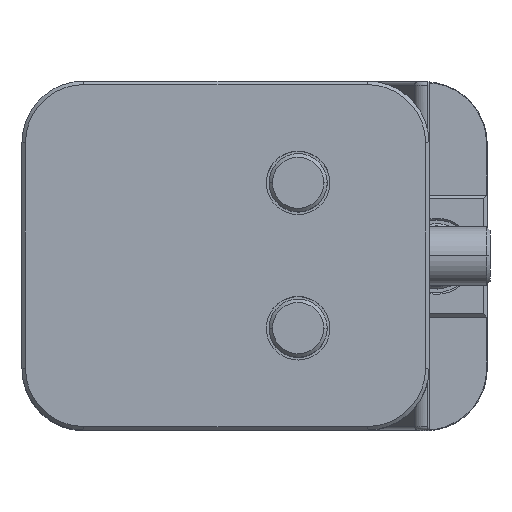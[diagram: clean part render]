
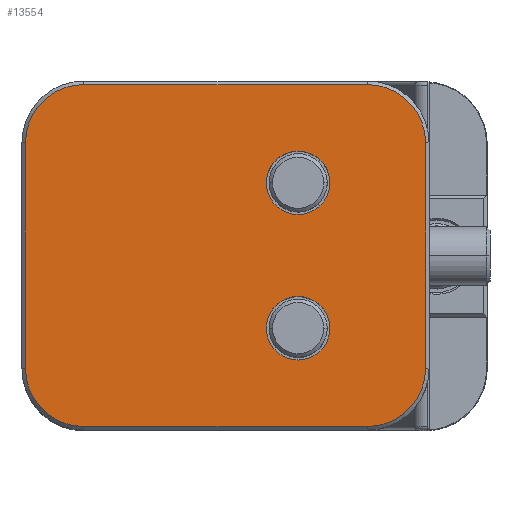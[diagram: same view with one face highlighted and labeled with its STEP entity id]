
A CAD part, top view. The second image highlights one B-rep face of the part: STEP entity #13554.
In plain terms, the highlighted planar face has unit normal (0, 0, 1).
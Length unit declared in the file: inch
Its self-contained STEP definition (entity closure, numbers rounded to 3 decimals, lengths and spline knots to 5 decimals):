
#266 = ORIENTED_EDGE ( 'NONE', *, *, #16102, .T. ) ;
#460 = VECTOR ( 'NONE', #12580, 39.37008 ) ;
#760 = FACE_OUTER_BOUND ( 'NONE', #2815, .T. ) ;
#1141 = CIRCLE ( 'NONE', #14020, 0.273 ) ;
#1780 = ORIENTED_EDGE ( 'NONE', *, *, #9793, .T. ) ;
#1789 = CARTESIAN_POINT ( 'NONE',  ( -1.3985, 0.625, 0. ) ) ;
#2026 = VECTOR ( 'NONE', #13058, 39.37008 ) ;
#2059 = CARTESIAN_POINT ( 'NONE',  ( -0.03, 0.9695, 0. ) ) ;
#2082 = DIRECTION ( 'NONE',  ( 0., 0., -1. ) ) ;
#2143 = DIRECTION ( 'NONE',  ( 0., 0., 1. ) ) ;
#2815 = EDGE_LOOP ( 'NONE', ( #14556, #15765, #12630, #266, #11210, #15732, #5502, #6787 ) ) ;
#3080 = CIRCLE ( 'NONE', #7704, 0.273 ) ;
#3355 = DIRECTION ( 'NONE',  ( 1., 0., 0. ) ) ;
#3434 = DIRECTION ( 'NONE',  ( 0., 0., 1. ) ) ;
#3452 = DIRECTION ( 'NONE',  ( 0., 1., 0. ) ) ;
#3782 = EDGE_CURVE ( 'NONE', #12579, #16794, #8959, .T. ) ;
#3789 = AXIS2_PLACEMENT_3D ( 'NONE', #17446, #3434, #17313 ) ;
#3862 = EDGE_CURVE ( 'NONE', #12845, #12849, #14005, .T. ) ;
#3875 = VERTEX_POINT ( 'NONE', #16830 ) ;
#4047 = DIRECTION ( 'NONE',  ( 0., 0., -1. ) ) ;
#4175 = CARTESIAN_POINT ( 'NONE',  ( -1.1255, -0.625, 0. ) ) ;
#4177 = CIRCLE ( 'NONE', #10794, 0.273 ) ;
#4206 = CARTESIAN_POINT ( 'NONE',  ( -3.499, 1.4695, 0. ) ) ;
#4412 = ORIENTED_EDGE ( 'NONE', *, *, #3862, .T. ) ;
#4441 = CARTESIAN_POINT ( 'NONE',  ( -0.53, -1.4695, 0. ) ) ;
#4463 = ORIENTED_EDGE ( 'NONE', *, *, #9713, .T. ) ;
#4626 = CARTESIAN_POINT ( 'NONE',  ( -1.1255, 0.625, 0. ) ) ;
#4718 = EDGE_LOOP ( 'NONE', ( #4412, #9258 ) ) ;
#4778 = EDGE_CURVE ( 'NONE', #14084, #10676, #4988, .T. ) ;
#4988 = CIRCLE ( 'NONE', #3789, 0.5 ) ;
#5053 = CARTESIAN_POINT ( 'NONE',  ( -1.1255, 0.625, 0. ) ) ;
#5087 = DIRECTION ( 'NONE',  ( 1., 0., 0. ) ) ;
#5201 = DIRECTION ( 'NONE',  ( 0., 0., 1. ) ) ;
#5414 = AXIS2_PLACEMENT_3D ( 'NONE', #11623, #2143, #3355 ) ;
#5502 = ORIENTED_EDGE ( 'NONE', *, *, #3782, .T. ) ;
#5513 = DIRECTION ( 'NONE',  ( 1., 0., 0. ) ) ;
#5574 = CARTESIAN_POINT ( 'NONE',  ( -3.499, -1.4695, 0. ) ) ;
#5575 = EDGE_CURVE ( 'NONE', #10676, #14322, #8220, .T. ) ;
#5768 = DIRECTION ( 'NONE',  ( 1., 0., 0. ) ) ;
#6115 = CARTESIAN_POINT ( 'NONE',  ( -3.469, -1.4995, 0. ) ) ;
#6787 = ORIENTED_EDGE ( 'NONE', *, *, #15312, .T. ) ;
#6900 = EDGE_CURVE ( 'NONE', #3875, #9482, #11609, .T. ) ;
#7166 = DIRECTION ( 'NONE',  ( 0., 0., -1. ) ) ;
#7196 = AXIS2_PLACEMENT_3D ( 'NONE', #14916, #16261, #5087 ) ;
#7704 = AXIS2_PLACEMENT_3D ( 'NONE', #9626, #4047, #12549 ) ;
#8056 = CARTESIAN_POINT ( 'NONE',  ( -0.53, -0.9695, 0. ) ) ;
#8220 = LINE ( 'NONE', #5574, #8645 ) ;
#8425 = CARTESIAN_POINT ( 'NONE',  ( -0.53, 1.4695, 0. ) ) ;
#8491 = AXIS2_PLACEMENT_3D ( 'NONE', #9440, #13649, #11042 ) ;
#8645 = VECTOR ( 'NONE', #13676, 39.37008 ) ;
#8702 = CARTESIAN_POINT ( 'NONE',  ( -0.8525, 0.625, 0. ) ) ;
#8887 = AXIS2_PLACEMENT_3D ( 'NONE', #4626, #7166, #5768 ) ;
#8939 = EDGE_CURVE ( 'NONE', #12849, #12845, #1141, .T. ) ;
#8959 = LINE ( 'NONE', #4206, #460 ) ;
#9258 = ORIENTED_EDGE ( 'NONE', *, *, #8939, .T. ) ;
#9440 = CARTESIAN_POINT ( 'NONE',  ( -2.969, 0.9695, 0. ) ) ;
#9482 = VERTEX_POINT ( 'NONE', #2059 ) ;
#9626 = CARTESIAN_POINT ( 'NONE',  ( -1.1255, -0.625, 0. ) ) ;
#9679 = DIRECTION ( 'NONE',  ( 0., 0., -1. ) ) ;
#9713 = EDGE_CURVE ( 'NONE', #16488, #13063, #4177, .T. ) ;
#9793 = EDGE_CURVE ( 'NONE', #13063, #16488, #3080, .T. ) ;
#9935 = CARTESIAN_POINT ( 'NONE',  ( -2.969, 1.4695, 0. ) ) ;
#10642 = EDGE_CURVE ( 'NONE', #9482, #12579, #11267, .T. ) ;
#10676 = VERTEX_POINT ( 'NONE', #12050 ) ;
#10794 = AXIS2_PLACEMENT_3D ( 'NONE', #4175, #9679, #5513 ) ;
#10810 = AXIS2_PLACEMENT_3D ( 'NONE', #8056, #5201, #12196 ) ;
#11042 = DIRECTION ( 'NONE',  ( 1., 0., 0. ) ) ;
#11071 = CIRCLE ( 'NONE', #10810, 0.5 ) ;
#11153 = VERTEX_POINT ( 'NONE', #15537 ) ;
#11210 = ORIENTED_EDGE ( 'NONE', *, *, #6900, .T. ) ;
#11267 = CIRCLE ( 'NONE', #5414, 0.5 ) ;
#11609 = LINE ( 'NONE', #14693, #17047 ) ;
#11623 = CARTESIAN_POINT ( 'NONE',  ( -0.53, 0.9695, 0. ) ) ;
#11750 = DIRECTION ( 'NONE',  ( 1., 0., 0. ) ) ;
#12050 = CARTESIAN_POINT ( 'NONE',  ( -2.969, -1.4695, 0. ) ) ;
#12196 = DIRECTION ( 'NONE',  ( 1., 0., 0. ) ) ;
#12549 = DIRECTION ( 'NONE',  ( 1., 0., 0. ) ) ;
#12579 = VERTEX_POINT ( 'NONE', #8425 ) ;
#12580 = DIRECTION ( 'NONE',  ( -1., 0., 0. ) ) ;
#12630 = ORIENTED_EDGE ( 'NONE', *, *, #5575, .T. ) ;
#12657 = FACE_BOUND ( 'NONE', #15454, .T. ) ;
#12845 = VERTEX_POINT ( 'NONE', #1789 ) ;
#12849 = VERTEX_POINT ( 'NONE', #8702 ) ;
#13058 = DIRECTION ( 'NONE',  ( 0., -1., 0. ) ) ;
#13063 = VERTEX_POINT ( 'NONE', #14482 ) ;
#13474 = PLANE ( 'NONE',  #7196 ) ;
#13554 = ADVANCED_FACE ( 'NONE', ( #12657, #760, #14183 ), #13474, .T. ) ;
#13649 = DIRECTION ( 'NONE',  ( 0., 0., 1. ) ) ;
#13676 = DIRECTION ( 'NONE',  ( 1., 0., 0. ) ) ;
#14005 = CIRCLE ( 'NONE', #8887, 0.273 ) ;
#14020 = AXIS2_PLACEMENT_3D ( 'NONE', #5053, #2082, #11750 ) ;
#14084 = VERTEX_POINT ( 'NONE', #16182 ) ;
#14183 = FACE_BOUND ( 'NONE', #4718, .T. ) ;
#14322 = VERTEX_POINT ( 'NONE', #4441 ) ;
#14482 = CARTESIAN_POINT ( 'NONE',  ( -0.8525, -0.625, 0. ) ) ;
#14556 = ORIENTED_EDGE ( 'NONE', *, *, #15180, .T. ) ;
#14693 = CARTESIAN_POINT ( 'NONE',  ( -0.03, 0.9695, 0. ) ) ;
#14916 = CARTESIAN_POINT ( 'NONE',  ( -3.499, -1.4995, 0. ) ) ;
#15180 = EDGE_CURVE ( 'NONE', #11153, #14084, #16742, .T. ) ;
#15312 = EDGE_CURVE ( 'NONE', #16794, #11153, #17200, .T. ) ;
#15454 = EDGE_LOOP ( 'NONE', ( #4463, #1780 ) ) ;
#15537 = CARTESIAN_POINT ( 'NONE',  ( -3.469, 0.9695, 0. ) ) ;
#15732 = ORIENTED_EDGE ( 'NONE', *, *, #10642, .T. ) ;
#15765 = ORIENTED_EDGE ( 'NONE', *, *, #4778, .T. ) ;
#16102 = EDGE_CURVE ( 'NONE', #14322, #3875, #11071, .T. ) ;
#16182 = CARTESIAN_POINT ( 'NONE',  ( -3.469, -0.9695, 0. ) ) ;
#16261 = DIRECTION ( 'NONE',  ( 0., 0., 1. ) ) ;
#16488 = VERTEX_POINT ( 'NONE', #17232 ) ;
#16742 = LINE ( 'NONE', #6115, #2026 ) ;
#16794 = VERTEX_POINT ( 'NONE', #9935 ) ;
#16830 = CARTESIAN_POINT ( 'NONE',  ( -0.03, -0.9695, 0. ) ) ;
#17047 = VECTOR ( 'NONE', #3452, 39.37008 ) ;
#17200 = CIRCLE ( 'NONE', #8491, 0.5 ) ;
#17232 = CARTESIAN_POINT ( 'NONE',  ( -1.3985, -0.625, 0. ) ) ;
#17313 = DIRECTION ( 'NONE',  ( 1., 0., 0. ) ) ;
#17446 = CARTESIAN_POINT ( 'NONE',  ( -2.969, -0.9695, 0. ) ) ;
